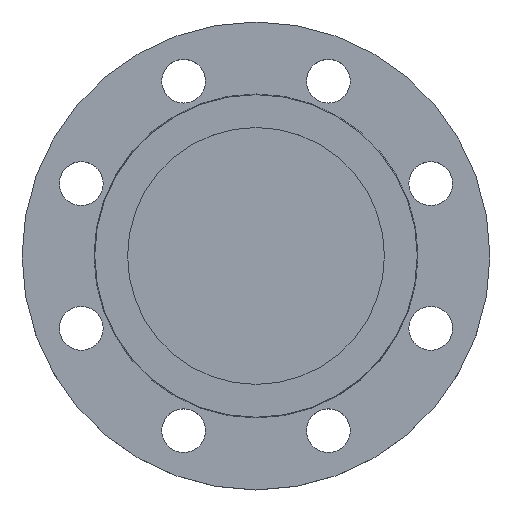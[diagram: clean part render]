
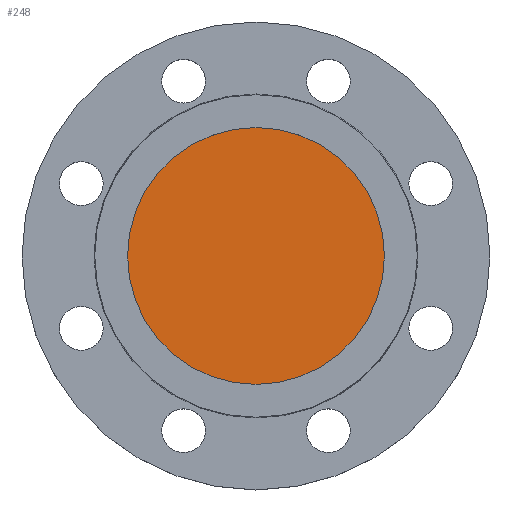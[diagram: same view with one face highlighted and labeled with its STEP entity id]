
A CAD part, top view. The second image highlights one B-rep face of the part: STEP entity #248.
In plain terms, the highlighted planar face has unit normal (0, 0, 1).
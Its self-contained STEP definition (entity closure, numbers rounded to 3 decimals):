
#34 = FACE_OUTER_BOUND ( 'NONE', #718, .T. ) ;
#85 = CARTESIAN_POINT ( 'NONE',  ( 64.5, 0., -5. ) ) ;
#170 = DIRECTION ( 'NONE',  ( -1., 0., 0. ) ) ;
#171 = DIRECTION ( 'NONE',  ( 0., 0., -1. ) ) ;
#172 = CARTESIAN_POINT ( 'NONE',  ( 0., 0., -5. ) ) ;
#216 = CARTESIAN_POINT ( 'NONE',  ( 0., 0., -5. ) ) ;
#225 = CIRCLE ( 'NONE', #652, 64.5 ) ;
#248 = ADVANCED_FACE ( 'NONE', ( #34 ), #310, .T. ) ;
#254 = CARTESIAN_POINT ( 'NONE',  ( -64.5, 0., -5. ) ) ;
#310 = PLANE ( 'NONE',  #502 ) ;
#365 = CIRCLE ( 'NONE', #781, 64.5 ) ;
#372 = DIRECTION ( 'NONE',  ( 0., 0., 1. ) ) ;
#374 = DIRECTION ( 'NONE',  ( 1., 0., 0. ) ) ;
#380 = EDGE_CURVE ( 'NONE', #842, #575, #225, .T. ) ;
#458 = CARTESIAN_POINT ( 'NONE',  ( 0., 0., -5. ) ) ;
#460 = DIRECTION ( 'NONE',  ( 0., 0., -1. ) ) ;
#461 = DIRECTION ( 'NONE',  ( -1., 0., 0. ) ) ;
#502 = AXIS2_PLACEMENT_3D ( 'NONE', #216, #372, #374 ) ;
#575 = VERTEX_POINT ( 'NONE', #254 ) ;
#640 = EDGE_CURVE ( 'NONE', #575, #842, #365, .T. ) ;
#652 = AXIS2_PLACEMENT_3D ( 'NONE', #458, #460, #461 ) ;
#718 = EDGE_LOOP ( 'NONE', ( #743, #744 ) ) ;
#743 = ORIENTED_EDGE ( 'NONE', *, *, #640, .F. ) ;
#744 = ORIENTED_EDGE ( 'NONE', *, *, #380, .F. ) ;
#781 = AXIS2_PLACEMENT_3D ( 'NONE', #172, #171, #170 ) ;
#842 = VERTEX_POINT ( 'NONE', #85 ) ;
